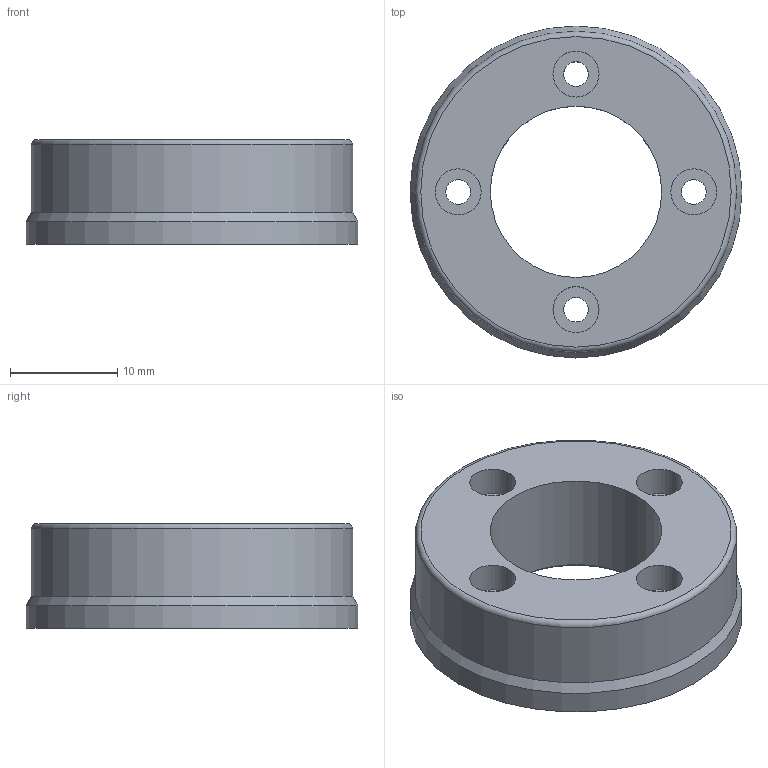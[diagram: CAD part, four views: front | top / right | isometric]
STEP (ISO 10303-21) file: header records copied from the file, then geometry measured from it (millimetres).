
FILE_DESCRIPTION(/* description */ (''),/* implementation_level */ '2;1');
FILE_NAME(/* name */ '32-3_flange_a.stp',/* time_stamp */ '2016-09-07T14:23:45+02:00',/* author */ ('DR. FRITZ FAULHABER GmbH & Co. KG'),/* organization */ ('DR. FRITZ FAULHABER GmbH & Co. KG'),/* preprocessor_version */ 'ST-DEVELOPER v16',/* originating_system */ 'SIEMENS PLM Software NX 10.0',/* authorisation */ '');
FILE_SCHEMA (('AUTOMOTIVE_DESIGN { 1 0 10303 214 3 1 1 1 }'));
Length unit declared in the file: millimetre
Products named in the file (1): F0200012197_E
Bounding box: 31 x 31 x 9.8 mm (x, y, z)
Volume: 4794.1 mm3; surface area: 2789.4 mm2
Topology: 1 solids, 1 shells, 20 faces, 48 edges, 39 vertices
Faces by surface type: cylinder 11, plane 6, cone 2, torus 1
Full cylindrical faces by diameter (mm): 2.3 x4, 4.3 x4, 16 x1, 30 x1, 31 x1
Entity records: 565 total; most frequent: DIRECTION 101, CARTESIAN_POINT 77, AXIS2_PLACEMENT_3D 49, FACE_BOUND 48, EDGE_LOOP 48, ORIENTED_EDGE 48, CIRCLE 28, VERTEX_POINT 24
